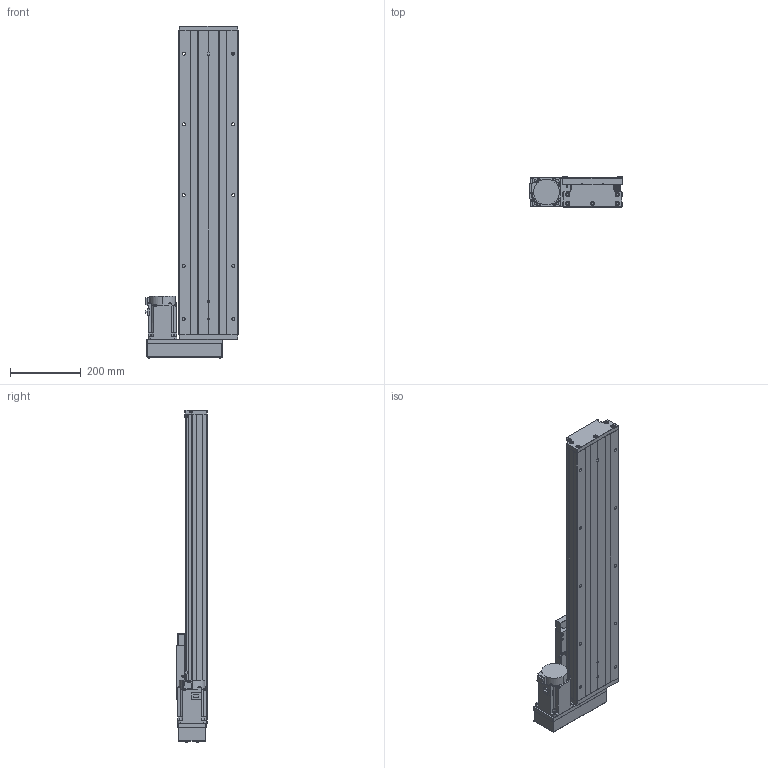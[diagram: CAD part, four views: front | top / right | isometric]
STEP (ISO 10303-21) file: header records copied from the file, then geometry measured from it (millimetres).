
FILE_DESCRIPTION (( 'STEP AP203' ), '1' );
FILE_NAME ('GTH17-600-BL-M75-C4.step', '2023-06-30T12:01:21', ( '微软用户' ), ( '微软中国' ), 'SwSTEP 2.0', 'SolidWorks 2020', '' );
FILE_SCHEMA (( 'CONFIG_CONTROL_DESIGN' ));
Length unit declared in the file: millimetre
Products named in the file (19): GBT 70.2-M3¡Á5_M3¡Á6; CTHA60-017; す晦芛蹟隊 M3℅5; EE_SX911P_R; HG-KN73J-S100; GTH17-001_600; CTHA60-016; GBT 70.2-M4¡Á45_M4¡Á35; GTH17-002_GTH17-002; GBT 70.1-M3℅5; GBT77-2000 M3×3; GTH17-015-2_CTHA86-015-2; GTH17-004; GBT 70.1-M6¡Á20_M6¡Á20; GTH17-033; GTH17-005; GTH17-031; GTH17-600-BL-M75-C4; GB1155-6X6
Assembly tree (58 placements, depth 2):
  GTH17-600-BL-M75-C4
    GTH17-001_600
    GTH17-002_GTH17-002
    GTH17-004
    GTH17-005
    GB1155-6X6  x2
    CTHA60-017  x3
    EE_SX911P_R  x3
    CTHA60-016  x2
    GBT 70.1-M3℅5  x6
    GBT77-2000 M3×3  x6
    GBT 70.1-M6¡Á20_M6¡Á20  x10
    GTH17-031
    GBT 70.2-M3¡Á5_M3¡Á6  x8
    す晦芛蹟隊 M3℅5  x6
    HG-KN73J-S100
    GBT 70.2-M4¡Á45_M4¡Á35  x4
    GTH17-015-2_CTHA86-015-2
    GTH17-033
Bounding box: 264.3 x 87 x 938.2 mm (x, y, z)
Volume: 7969965.9 mm3; surface area: 1136731 mm2
Topology: 61 solids, 61 shells, 2439 faces, 5821 edges, 3603 vertices
Faces by surface type: plane 1308, cylinder 658, cone 297, torus 124, sphere 32, bspline 20
Entity records: 44430 total; most frequent: CARTESIAN_POINT 10316, DIRECTION 6421, ORIENTED_EDGE 6354, EDGE_CURVE 3177, AXIS2_PLACEMENT_3D 2186, VECTOR 2049, LINE 2049, VERTEX_POINT 2015
